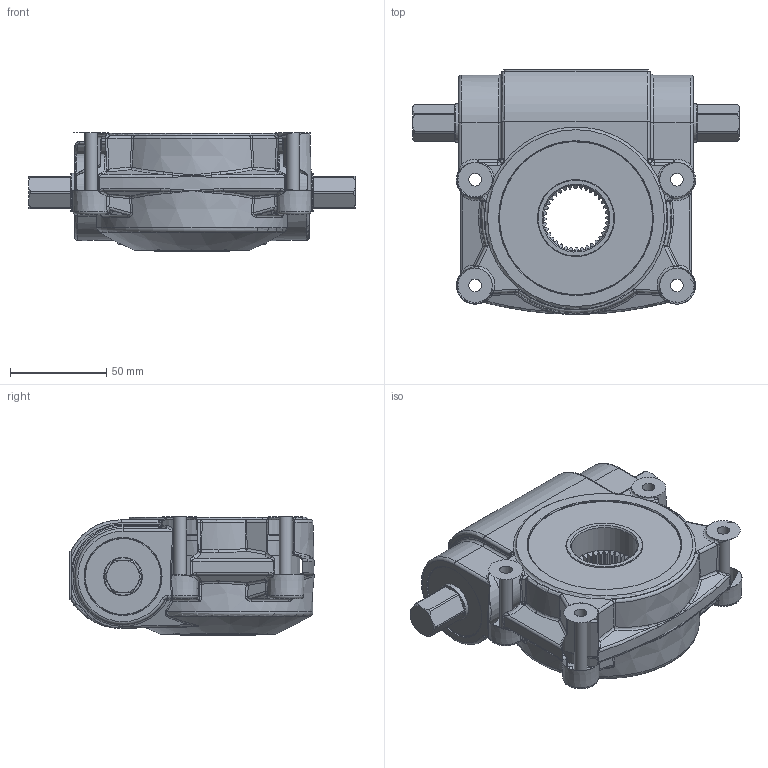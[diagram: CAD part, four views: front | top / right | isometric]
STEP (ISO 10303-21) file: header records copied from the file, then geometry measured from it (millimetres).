
FILE_DESCRIPTION(/* description */ ('STEP AP214'),/* implementation_level */ '2;1');
FILE_NAME(/* name */ 'C:\Users\nesvadba\Downloads\62175_1550_9074.stp',/* time_stamp */ '2024-05-23T15:46:23+02:00',/* author */ ('nesvadba'),/* organization */ (''),/* preprocessor_version */ 'ST-DEVELOPER v18.1',/* originating_system */ 'Autodesk Inventor 2022',/* authorisation */ '');
FILE_SCHEMA (('AUTOMOTIVE_DESIGN { 1 0 10303 214 3 1 1 }'));
Products named in the file (1): VRE_75.1550_62175.1550.9074_STEP_09072014
Bounding box: 170 x 127.25 x 61.5 mm (x, y, z)
Volume: 406974.6 mm3; surface area: 140925.5 mm2
Topology: 9 solids, 11 shells, 2057 faces, 5416 edges, 3504 vertices
Faces by surface type: plane 946, bspline 730, cylinder 231, cone 77, torus 53, sphere 20
Full cylindrical faces by diameter (mm): 0.1 x4, 2.5 x1, 6.6 x4, 9 x1, 20 x4, 27.142 x2, 27.162 x2, 34.2 x2, 36.5 x1, 37.5 x2, 37.52 x2, 38.48 x2, 38.5 x2, 40 x6, 42 x1, 44 x1, 44.4 x2, 45 x3, 50 x1, 56 x1, 58 x2, 78 x1, 79.65 x1, 80 x2, 84 x1
Entity records: 101330 total; most frequent: CARTESIAN_POINT 53652, ORIENTED_EDGE 10780, DIRECTION 7202, EDGE_CURVE 5390, VERTEX_POINT 3504, LINE 2874, VECTOR 2874, EDGE_LOOP 2242
